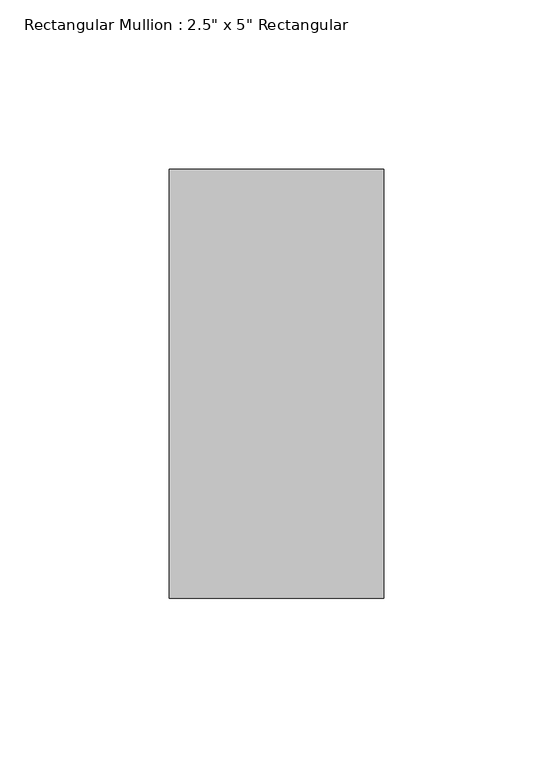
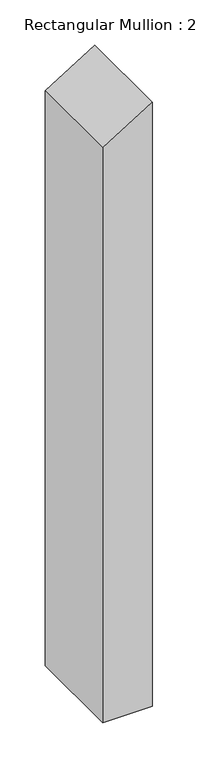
"""IFC4 building model written with IfcOpenShell, lengths in millimetres: member geometry."""

from ifc_helpers import new_model, si_unit, frame, origin, place, context, project, spatial, polyline, outline, extrude, source, transform, mapped, element, save


def member_170a6c2d(model_context):
    return source(origin(), model_context, "Body", "SweptSolid", [
        extrude(outline(polyline([(0.0, 0.0), (-39.2451583, -63.5), (-815.5695679, -63.5), (-815.5695679, 0.0), (0.0, 0.0)])), frame((0.0, -63.5, 0.0), z_axis=(0.0, 1.0, 0.0), x_axis=(0.0, 0.0, 1.0)), (0.0, 0.0, 1.0), 127.0),
    ])


if __name__ == "__main__":
    model = new_model("IFC4")
    model_context = context("Model", 3, world=origin())
    ifc_project = project(units=[si_unit("LENGTHUNIT", "METRE", prefix="MILLI")], contexts=[model_context])
    site = spatial("IfcSite", under=ifc_project)
    building = spatial("IfcBuilding", under=site)
    placement = place(None, origin())
    member_shape = member_170a6c2d(model_context)
    element("IfcMember", 1, ObjectType="Rectangular Mullion : 2.5\" x 5\" Rectangular", at=placement, inside=building, context=model_context, shape_type="MappedRepresentation", body=[
        mapped(member_shape, transform((0.0, 0.0, 0.0), x_axis=(1.0, 0.0, 0.0), y_axis=(0.0, 1.0, 0.0), z_axis=(0.0, 0.0, 1.0))),
    ])
    save(model, "model.ifc")
